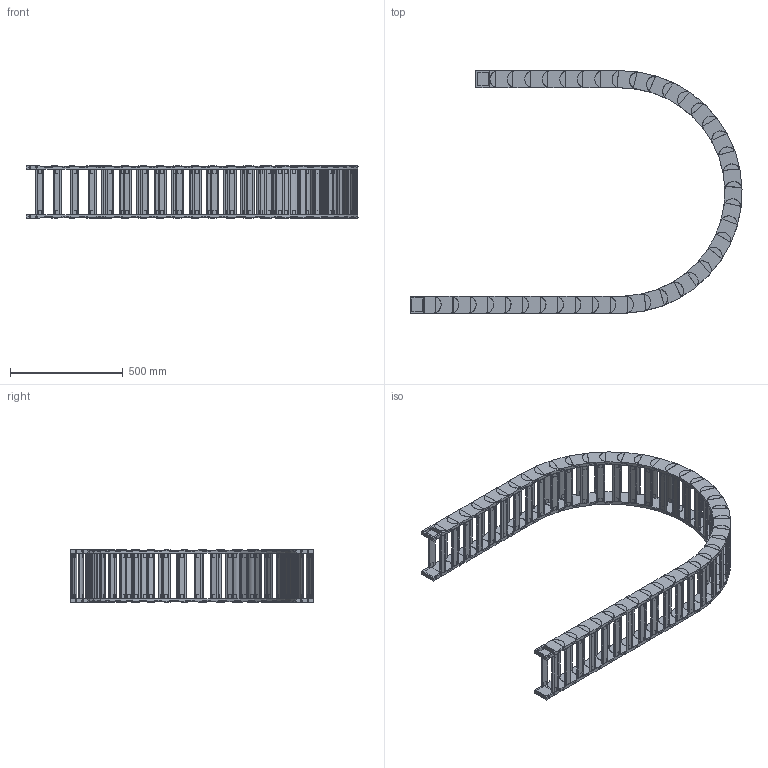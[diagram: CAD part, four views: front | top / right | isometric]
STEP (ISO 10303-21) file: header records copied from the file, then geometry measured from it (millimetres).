
FILE_DESCRIPTION((''),'2;1');
FILE_NAME('HD55-R500-ZPT_ASM','2022-06-17T18:52:26',('admin'),(''),'CREO PARAMETRIC BY PTC INC, 2021164','CREO PARAMETRIC BY PTC INC, 2021164','');
FILE_SCHEMA(('CONFIG_CONTROL_DESIGN','GEOMETRIC_VALIDATION_PROPERTIES_MIM'));
Length unit declared in the file: millimetre
Products named in the file (6): HD-55; 55-500001; HD55_ASM; H55-T1; H55-T2; HD55-R500-ZPT_ASM
Assembly tree (44 placements, depth 3):
  HD55-R500-ZPT_ASM
    HD55_ASM  x38
      HD-55
      55-500001
    H55-T1
    H55-T2
    55-500001  x2
Bounding box: 1472.73 x 1075.69 x 232.7 mm (x, y, z)
Volume: 11847432.7 mm3; surface area: 3605712.8 mm2
Topology: 160 solids, 160 shells, 2622 faces, 6726 edges, 4588 vertices
Faces by surface type: plane 2180, cylinder 442
Entity records: 8951 total; most frequent: CARTESIAN_POINT 1324, DIRECTION 1286, ORIENTED_EDGE 1172, EDGE_CURVE 586, AXIS2_PLACEMENT_3D 434, VECTOR 418, LINE 418, VERTEX_POINT 396
